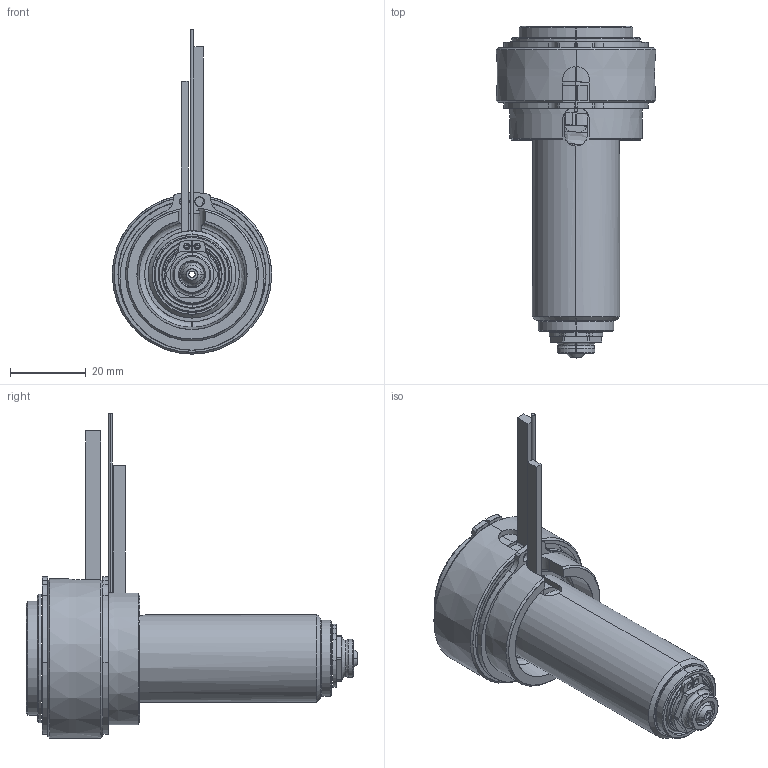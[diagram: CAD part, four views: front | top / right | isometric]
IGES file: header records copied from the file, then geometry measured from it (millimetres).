
Start section: SolidWorks IGES file using analytic representation for surfaces
Global section: file name: C:\Documents and Settings\ws-20\Desktop\TEM\UGER3551-M-A-0 [Øb-1.70  ØC-6.0].IGS; native system: SolidWorks 2012; preprocessor: SolidWorks 2012; author: ws-20; date: 120410.094023; units: millimetre
Bounding box: 42 x 87.4 x 85.4 mm (x, y, z)
Surface area: 30405.2 mm2 (no closed solid volume)
Topology: 0 solids, 0 shells, 206 faces, 3382 edges, 3382 vertices
Faces by surface type: revolution 132, bspline 74
